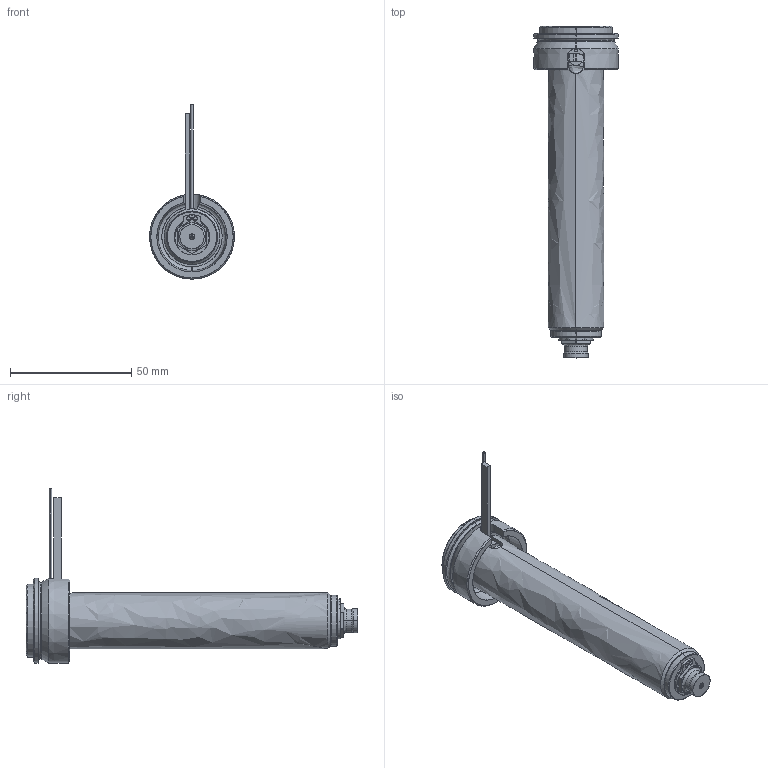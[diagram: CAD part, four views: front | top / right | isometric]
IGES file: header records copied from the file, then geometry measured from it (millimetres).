
Start section: SolidWorks IGES file using analytic representation for surfaces
Global section: file name: C:\Documents and Settings\ws-20\Desktop\TEM\UGEP3153-M-A-0 [Øf-0.90 P-0 ØC-6.0].IGS; native system: SolidWorks 2012; preprocessor: SolidWorks 2012; author: ws-20; date: 120404.080816; units: millimetre
Bounding box: 35 x 137 x 71.9 mm (x, y, z)
Surface area: 27065.5 mm2 (no closed solid volume)
Topology: 0 solids, 0 shells, 122 faces, 1768 edges, 1768 vertices
Faces by surface type: revolution 73, bspline 49
